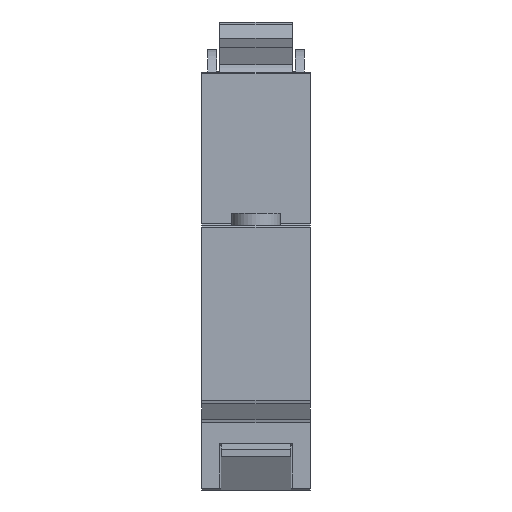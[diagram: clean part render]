
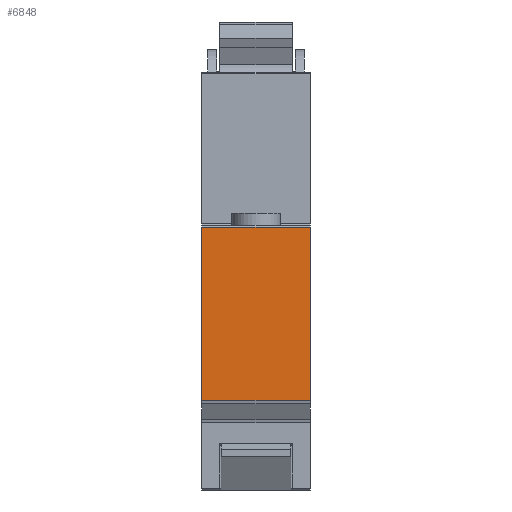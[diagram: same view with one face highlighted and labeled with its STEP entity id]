
A CAD part, front view. The second image highlights one B-rep face of the part: STEP entity #6848.
In plain terms, the highlighted planar face has unit normal (0, -1, 0).
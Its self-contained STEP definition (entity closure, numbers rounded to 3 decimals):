
#594=FACE_OUTER_BOUND('',#1018,.T.);
#1018=EDGE_LOOP('',(#5677,#5678,#5679,#5680));
#1689=LINE('',#11892,#2343);
#1704=LINE('',#11931,#2358);
#1705=LINE('',#11934,#2359);
#1706=LINE('',#11935,#2360);
#2343=VECTOR('',#8141,10.);
#2358=VECTOR('',#8178,10.);
#2359=VECTOR('',#8181,10.);
#2360=VECTOR('',#8182,10.);
#3199=VERTEX_POINT('',#11889);
#3200=VERTEX_POINT('',#11891);
#3213=VERTEX_POINT('',#11929);
#3214=VERTEX_POINT('',#11933);
#4069=EDGE_CURVE('',#3200,#3199,#1689,.T.);
#4089=EDGE_CURVE('',#3200,#3213,#1704,.T.);
#4090=EDGE_CURVE('',#3214,#3199,#1705,.T.);
#4091=EDGE_CURVE('',#3213,#3214,#1706,.T.);
#5677=ORIENTED_EDGE('',*,*,#4089,.F.);
#5678=ORIENTED_EDGE('',*,*,#4069,.T.);
#5679=ORIENTED_EDGE('',*,*,#4090,.F.);
#5680=ORIENTED_EDGE('',*,*,#4091,.F.);
#6459=PLANE('',#7163);
#6848=ADVANCED_FACE('',(#594),#6459,.T.);
#7163=AXIS2_PLACEMENT_3D('',#11932,#8179,#8180);
#8141=DIRECTION('',(0.,0.,-1.));
#8178=DIRECTION('',(1.,0.,0.));
#8179=DIRECTION('center_axis',(0.,-1.,0.));
#8180=DIRECTION('ref_axis',(0.,0.,-1.));
#8181=DIRECTION('',(-1.,0.,0.));
#8182=DIRECTION('',(0.,0.,-1.));
#11889=CARTESIAN_POINT('',(0.,-35.339,-25.861));
#11891=CARTESIAN_POINT('',(0.,-35.339,2.941));
#11892=CARTESIAN_POINT('',(0.,-35.339,3.241));
#11929=CARTESIAN_POINT('',(18.,-35.339,2.941));
#11931=CARTESIAN_POINT('',(0.,-35.339,2.941));
#11932=CARTESIAN_POINT('Origin',(0.,-35.339,3.241));
#11933=CARTESIAN_POINT('',(18.,-35.339,-25.861));
#11934=CARTESIAN_POINT('',(0.,-35.339,-25.861));
#11935=CARTESIAN_POINT('',(18.,-35.339,3.241));
